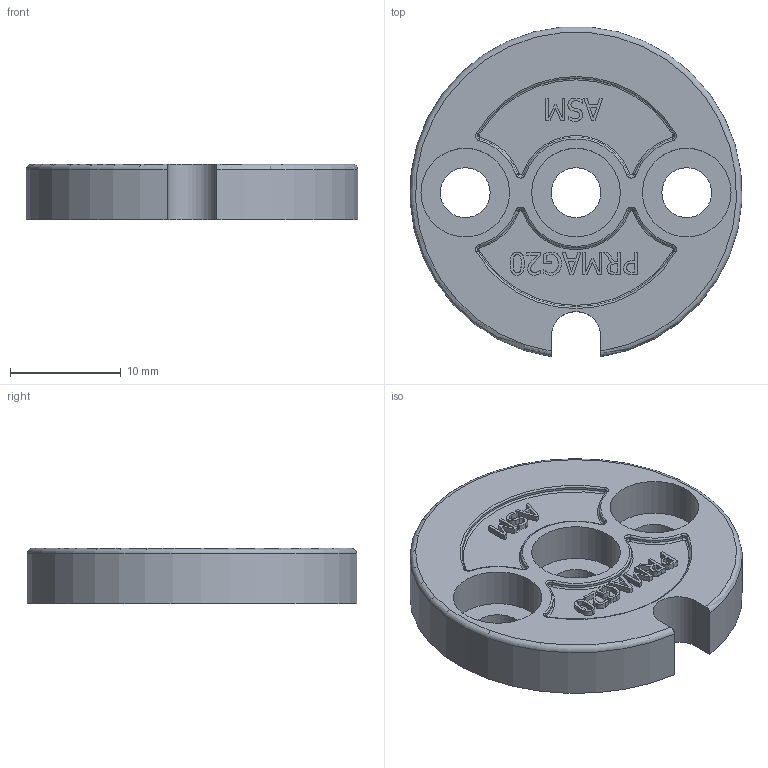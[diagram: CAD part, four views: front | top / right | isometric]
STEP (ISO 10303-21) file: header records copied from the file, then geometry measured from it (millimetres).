
FILE_DESCRIPTION((''),'2;1');
FILE_NAME('K:\Daten\Bauteil18.stp','2009-06-18T16:57:56',('kamp'),(''),'Autodesk Inventor 2008','Autodesk Inventor 2008','');
FILE_SCHEMA(('AUTOMOTIVE_DESIGN { 1 0 10303 214 1 1 1 1 }'));
Length unit declared in the file: millimetre
Products named in the file (1): Bauteil18
Bounding box: 29.96 x 29.78 x 5 mm (x, y, z)
Volume: 2763.7 mm3; surface area: 2182.2 mm2
Topology: 1 solids, 1 shells, 233 faces, 603 edges, 392 vertices
Faces by surface type: plane 108, bspline 84, cylinder 24, torus 17
Full cylindrical faces by diameter (mm): 4.5 x3, 8 x3
Entity records: 7985 total; most frequent: CARTESIAN_POINT 2477, ORIENTED_EDGE 1190, DIRECTION 870, EDGE_CURVE 595, VERTEX_POINT 390, VECTOR 344, LINE 344, EDGE_LOOP 265
